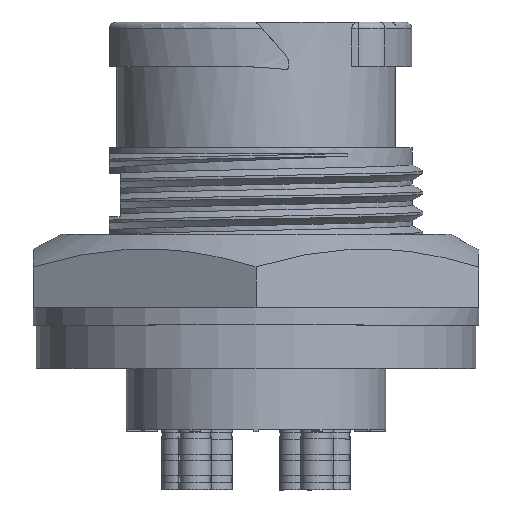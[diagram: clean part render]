
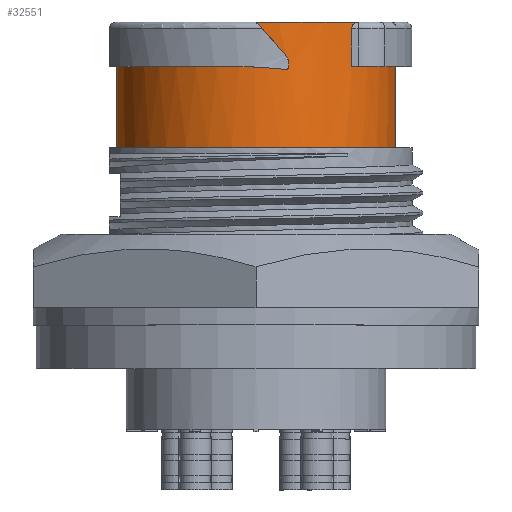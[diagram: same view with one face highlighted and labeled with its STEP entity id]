
A CAD part, top view. The second image highlights one B-rep face of the part: STEP entity #32551.
In plain terms, the highlighted cylindrical face has radius 6.45 mm (diameter 12.9 mm), a partial arc.
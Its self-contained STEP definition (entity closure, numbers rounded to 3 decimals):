
#9196=CARTESIAN_POINT('',(0.,10.2,0.));
#9197=DIRECTION('',(0.,1.,0.));
#9198=DIRECTION('',(-1.,0.,0.));
#9199=AXIS2_PLACEMENT_3D('',#9196,#9197,#9198);
#9205=DIRECTION('',(0.,-1.,0.));
#9206=VECTOR('',#9205,3.75);
#9207=CARTESIAN_POINT('',(-6.45,13.95,0.));
#9208=LINE('',#9207,#9206);
#9320=CARTESIAN_POINT('',(0.,16.,0.));
#9321=DIRECTION('',(0.,-1.,0.));
#9322=DIRECTION('',(0.731,0.,0.682));
#9323=AXIS2_PLACEMENT_3D('',#9320,#9321,#9322);
#9382=CARTESIAN_POINT('',(0.,16.,6.45));
#9383=CARTESIAN_POINT('',(0.037,15.963,6.45));
#9384=CARTESIAN_POINT('',(0.111,15.882,6.449));
#9385=CARTESIAN_POINT('',(0.23,15.751,6.446));
#9386=CARTESIAN_POINT('',(0.358,15.608,6.441));
#9387=CARTESIAN_POINT('',(0.496,15.453,6.431));
#9388=CARTESIAN_POINT('',(0.646,15.283,6.418));
#9389=CARTESIAN_POINT('',(0.808,15.099,6.4));
#9390=CARTESIAN_POINT('',(0.984,14.898,6.375));
#9391=CARTESIAN_POINT('',(1.175,14.678,6.343));
#9392=CARTESIAN_POINT('',(1.314,14.518,6.315));
#9393=CARTESIAN_POINT('',(1.385,14.434,6.299));
#9406=DIRECTION('',(0.,-1.,0.));
#9407=VECTOR('',#9406,1.75);
#9408=CARTESIAN_POINT('',(4.417,15.7,4.7));
#9409=LINE('',#9408,#9407);
#9410=DIRECTION('',(0.,-1.,0.));
#9411=VECTOR('',#9410,3.75);
#9412=CARTESIAN_POINT('',(6.45,13.95,0.));
#9413=LINE('',#9412,#9411);
#9414=CARTESIAN_POINT('',(-0.8,13.95,
6.4));
#9415=CARTESIAN_POINT('',(-0.75,13.95,
6.406));
#9416=CARTESIAN_POINT('',(-0.645,13.947,
6.418));
#9417=CARTESIAN_POINT('',(-0.471,13.939,
6.434));
#9418=CARTESIAN_POINT('',(-0.28,13.93,
6.445));
#9419=CARTESIAN_POINT('',(-0.069,13.918,
6.451));
#9420=CARTESIAN_POINT('',(0.164,13.904,6.449));
#9421=CARTESIAN_POINT('',(0.423,13.888,6.438));
#9422=CARTESIAN_POINT('',(0.711,13.868,6.413));
#9423=CARTESIAN_POINT('',(1.029,13.845,6.37));
#9424=CARTESIAN_POINT('',(1.269,13.826,6.325));
#9425=CARTESIAN_POINT('',(1.395,13.813,6.297));
#9427=CARTESIAN_POINT('',(1.395,13.813,6.297));
#9428=CARTESIAN_POINT('',(1.409,13.811,6.294));
#9429=CARTESIAN_POINT('',(1.436,13.814,6.288));
#9430=CARTESIAN_POINT('',(1.474,13.835,6.279));
#9431=CARTESIAN_POINT('',(1.499,13.87,6.273));
#9432=CARTESIAN_POINT('',(1.505,13.896,6.272));
#9433=CARTESIAN_POINT('',(1.505,13.91,6.272));
#9435=CARTESIAN_POINT('',(1.505,13.91,6.272));
#9436=CARTESIAN_POINT('',(1.505,13.932,6.272));
#9437=CARTESIAN_POINT('',(1.506,13.976,6.272));
#9438=CARTESIAN_POINT('',(1.506,14.044,6.272));
#9439=CARTESIAN_POINT('',(1.506,14.09,6.272));
#9440=CARTESIAN_POINT('',(1.506,14.113,6.272));
#9442=CARTESIAN_POINT('',(1.506,14.113,6.272));
#9443=CARTESIAN_POINT('',(1.505,14.153,6.272));
#9444=CARTESIAN_POINT('',(1.496,14.229,6.274));
#9445=CARTESIAN_POINT('',(1.455,14.339,6.284));
#9446=CARTESIAN_POINT('',(1.411,14.404,6.294));
#9447=CARTESIAN_POINT('',(1.385,14.434,6.299));
#9453=CARTESIAN_POINT('',(4.417,15.7,4.7));
#9454=CARTESIAN_POINT('',(4.417,15.712,4.7));
#9455=CARTESIAN_POINT('',(4.419,15.738,4.698));
#9456=CARTESIAN_POINT('',(4.427,15.775,4.691));
#9457=CARTESIAN_POINT('',(4.44,15.813,4.679));
#9458=CARTESIAN_POINT('',(4.459,15.851,4.66));
#9459=CARTESIAN_POINT('',(4.486,15.888,4.635));
#9460=CARTESIAN_POINT('',(4.52,15.924,4.602));
#9461=CARTESIAN_POINT('',(4.561,15.955,4.561));
#9462=CARTESIAN_POINT('',(4.61,15.98,4.511));
#9463=CARTESIAN_POINT('',(4.663,15.996,4.457));
#9464=CARTESIAN_POINT('',(4.698,16.,4.419));
#9465=CARTESIAN_POINT('',(4.717,16.,4.4));
#9542=CARTESIAN_POINT('',(0.,13.95,0.));
#9543=DIRECTION('',(0.,-1.,0.));
#9544=DIRECTION('',(1.,0.,0.));
#9545=AXIS2_PLACEMENT_3D('',#9542,#9543,#9544);
#9716=CARTESIAN_POINT('',(0.,13.95,0.));
#9717=DIRECTION('',(0.,-1.,0.));
#9718=DIRECTION('',(-0.124,0.,0.992));
#9719=AXIS2_PLACEMENT_3D('',#9716,#9717,#9718);
#17273=CARTESIAN_POINT('',(6.45,10.2,0.));
#17274=CARTESIAN_POINT('',(-6.45,10.2,0.));
#17275=VERTEX_POINT('',#17273);
#17276=VERTEX_POINT('',#17274);
#17284=CARTESIAN_POINT('',(-6.45,13.95,0.));
#17285=VERTEX_POINT('',#17284);
#17286=CARTESIAN_POINT('',(6.45,13.95,0.));
#17287=VERTEX_POINT('',#17286);
#17319=CARTESIAN_POINT('',(4.716,16.,4.4));
#17320=VERTEX_POINT('',#17319);
#17321=CARTESIAN_POINT('',(0.,16.,6.45));
#17322=VERTEX_POINT('',#17321);
#17340=VERTEX_POINT('',#9393);
#17341=VERTEX_POINT('',#9453);
#17342=CARTESIAN_POINT('',(4.417,13.95,4.7));
#17343=VERTEX_POINT('',#17342);
#17344=CARTESIAN_POINT('',(-0.8,13.95,6.4));
#17345=VERTEX_POINT('',#17344);
#17346=VERTEX_POINT('',#9425);
#17347=VERTEX_POINT('',#9433);
#17348=VERTEX_POINT('',#9440);
#32523=CARTESIAN_POINT('',(0.,-3.74,0.));
#32524=DIRECTION('',(0.,1.,0.));
#32525=DIRECTION('',(1.,0.,0.));
#32526=AXIS2_PLACEMENT_3D('',#32523,#32524,#32525);
#32527=CYLINDRICAL_SURFACE('',#32526,6.45);
#32528=ORIENTED_EDGE('',*,*,#32401,.F.);
#32530=ORIENTED_EDGE('',*,*,#32529,.F.);
#32532=ORIENTED_EDGE('',*,*,#32531,.T.);
#32534=ORIENTED_EDGE('',*,*,#32533,.F.);
#32535=ORIENTED_EDGE('',*,*,#32341,.T.);
#32536=ORIENTED_EDGE('',*,*,#32313,.F.);
#32537=ORIENTED_EDGE('',*,*,#32338,.F.);
#32539=ORIENTED_EDGE('',*,*,#32538,.F.);
#32541=ORIENTED_EDGE('',*,*,#32540,.T.);
#32543=ORIENTED_EDGE('',*,*,#32542,.T.);
#32545=ORIENTED_EDGE('',*,*,#32544,.T.);
#32547=ORIENTED_EDGE('',*,*,#32546,.T.);
#32548=ORIENTED_EDGE('',*,*,#32508,.F.);
#32549=EDGE_LOOP('',(#32528,#32530,#32532,#32534,#32535,#32536,#32537,#32539,
#32541,#32543,#32545,#32547,#32548));
#32550=FACE_OUTER_BOUND('',#32549,.F.);
#32551=ADVANCED_FACE('',(#32550),#32527,.T.);
#9200=CIRCLE('',#9199,6.45);
#9324=CIRCLE('',#9323,6.45);
#9394=B_SPLINE_CURVE_WITH_KNOTS('',3,(#9382,#9383,#9384,#9385,#9386,#9387,#9388,
#9389,#9390,#9391,#9392,#9393),.UNSPECIFIED.,.F.,.F.,(4,1,1,1,1,1,1,1,1,4),
(0.,0.111,0.222,0.333,0.444,
0.556,0.667,0.778,0.889,1.),
.UNSPECIFIED.);
#9426=B_SPLINE_CURVE_WITH_KNOTS('',3,(#9414,#9415,#9416,#9417,#9418,#9419,#9420,
#9421,#9422,#9423,#9424,#9425),.UNSPECIFIED.,.F.,.F.,(4,1,1,1,1,1,1,1,1,4),
(0.,0.111,0.222,0.333,0.444,
0.556,0.667,0.778,0.889,1.),
.UNSPECIFIED.);
#9434=B_SPLINE_CURVE_WITH_KNOTS('',3,(#9427,#9428,#9429,#9430,#9431,#9432,
#9433),.UNSPECIFIED.,.F.,.F.,(4,1,1,1,4),(0.,0.25,0.5,0.75,1.),
.UNSPECIFIED.);
#9441=B_SPLINE_CURVE_WITH_KNOTS('',3,(#9435,#9436,#9437,#9438,#9439,#9440),
.UNSPECIFIED.,.F.,.F.,(4,1,1,4),(0.,0.333,0.667,1.),
.UNSPECIFIED.);
#9448=B_SPLINE_CURVE_WITH_KNOTS('',3,(#9442,#9443,#9444,#9445,#9446,#9447),
.UNSPECIFIED.,.F.,.F.,(4,1,1,4),(0.,0.333,0.667,1.),
.UNSPECIFIED.);
#9466=B_SPLINE_CURVE_WITH_KNOTS('',3,(#9453,#9454,#9455,#9456,#9457,#9458,#9459,
#9460,#9461,#9462,#9463,#9464,#9465),.UNSPECIFIED.,.F.,.F.,(4,1,1,1,1,1,1,1,1,1,
4),(0.,0.1,0.2,0.3,0.4,0.5,0.6,0.7,0.8,0.9,1.),
.UNSPECIFIED.);
#9546=CIRCLE('',#9545,6.45);
#9720=CIRCLE('',#9719,6.45);
#32313=EDGE_CURVE('',#17276,#17275,#9200,.T.);
#32338=EDGE_CURVE('',#17285,#17276,#9208,.T.);
#32341=EDGE_CURVE('',#17287,#17275,#9413,.T.);
#32401=EDGE_CURVE('',#17320,#17322,#9324,.T.);
#32508=EDGE_CURVE('',#17322,#17340,#9394,.T.);
#32529=EDGE_CURVE('',#17341,#17320,#9466,.T.);
#32531=EDGE_CURVE('',#17341,#17343,#9409,.T.);
#32533=EDGE_CURVE('',#17287,#17343,#9546,.T.);
#32538=EDGE_CURVE('',#17345,#17285,#9720,.T.);
#32540=EDGE_CURVE('',#17345,#17346,#9426,.T.);
#32542=EDGE_CURVE('',#17346,#17347,#9434,.T.);
#32544=EDGE_CURVE('',#17347,#17348,#9441,.T.);
#32546=EDGE_CURVE('',#17348,#17340,#9448,.T.);
